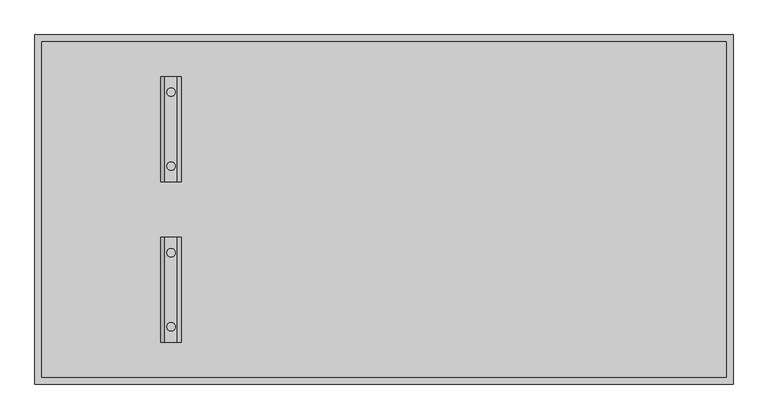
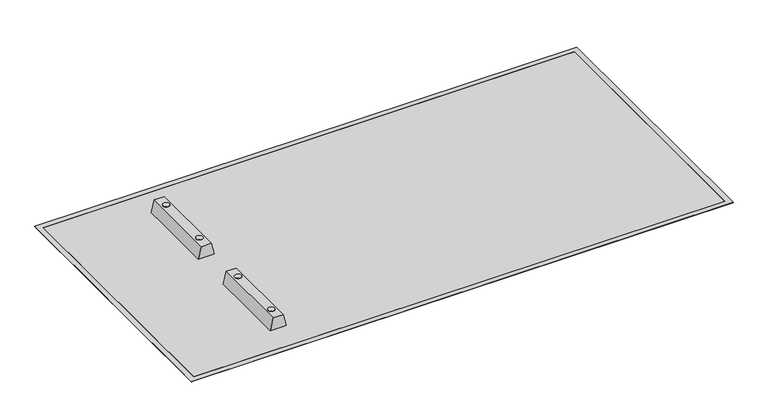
"""IFC4 building model written with IfcOpenShell, lengths in millimetres: proxy geometry, XX171-주차선 표기(일반용) : XX171-주차선 표기(일반용)_라인(2.5X5.0)."""

from ifc_helpers import new_model, si_unit, point, frame, frame_2d, origin, origin_with_axes, place, context, project, spatial, polyline, circle_curve, trimmed, segment, composite_curve, outline, extrude, source, transform, mapped, element, save


def parking_aa608fea(model_context):
    return source(origin(), model_context, "Body", "SweptSolid", [
        extrude(outline(composite_curve([segment(trimmed(circle_curve(frame_2d((-1525.0, 310.0)), 30.0), [point((-1525.0, 340.0))], [point((-1525.0, 280.0))], False, "CARTESIAN"), True, "CONTINUOUS"), segment(trimmed(circle_curve(frame_2d((-1525.0, 310.0)), 30.0), [point((-1525.0, 280.0))], [point((-1525.0, 340.0))], False, "CARTESIAN"), True, "CONTINUOUS")], self_intersect=False)), frame((0.0, 0.0, 117.0), z_axis=(0.0, 0.0, 1.0), x_axis=(1.0, 0.0, 0.0)), (0.0, 0.0, 1.0), 3.0),
        extrude(outline(composite_curve([segment(trimmed(circle_curve(frame_2d((-1525.0, 840.0)), 30.0), [point((-1525.0, 870.0))], [point((-1525.0, 810.0))], False, "CARTESIAN"), True, "CONTINUOUS"), segment(trimmed(circle_curve(frame_2d((-1525.0, 840.0)), 30.0), [point((-1525.0, 810.0))], [point((-1525.0, 870.0))], False, "CARTESIAN"), True, "CONTINUOUS")], self_intersect=False)), frame((0.0, 0.0, 117.0), z_axis=(0.0, 0.0, 1.0), x_axis=(1.0, 0.0, 0.0)), (0.0, 0.0, 1.0), 3.0),
        extrude(outline(polyline([(117.0, -1480.0), (117.0, -1570.0), (0.0, -1600.0), (0.0, -1450.0), (117.0, -1480.0)])), frame((0.0, 200.0, 0.0), z_axis=(0.0, 1.0, 0.0), x_axis=(0.0, 0.0, 1.0)), (0.0, 0.0, 1.0), 750.0),
        extrude(outline(composite_curve([segment(trimmed(circle_curve(frame_2d((-1525.0, -840.0)), 30.0), [point((-1525.0, -810.0))], [point((-1525.0, -870.0))], False, "CARTESIAN"), True, "CONTINUOUS"), segment(trimmed(circle_curve(frame_2d((-1525.0, -840.0)), 30.0), [point((-1525.0, -870.0))], [point((-1525.0, -810.0))], False, "CARTESIAN"), True, "CONTINUOUS")], self_intersect=False)), frame((0.0, 0.0, 117.0), z_axis=(0.0, 0.0, 1.0), x_axis=(1.0, 0.0, 0.0)), (0.0, 0.0, 1.0), 3.0),
        extrude(outline(composite_curve([segment(trimmed(circle_curve(frame_2d((-1525.0, -310.0)), 30.0), [point((-1525.0, -280.0))], [point((-1525.0, -340.0))], False, "CARTESIAN"), True, "CONTINUOUS"), segment(trimmed(circle_curve(frame_2d((-1525.0, -310.0)), 30.0), [point((-1525.0, -340.0))], [point((-1525.0, -280.0))], False, "CARTESIAN"), True, "CONTINUOUS")], self_intersect=False)), frame((0.0, 0.0, 117.0), z_axis=(0.0, 0.0, 1.0), x_axis=(1.0, 0.0, 0.0)), (0.0, 0.0, 1.0), 3.0),
        extrude(outline(polyline([(117.0, -1480.0), (117.0, -1570.0), (0.0, -1600.0), (0.0, -1450.0), (117.0, -1480.0)])), frame((0.0, -950.0, 0.0), z_axis=(0.0, 1.0, 0.0), x_axis=(0.0, 0.0, 1.0)), (0.0, 0.0, 1.0), 750.0),
        extrude(outline(polyline([(2450.0, -1200.0), (-2450.0, -1200.0), (-2450.0, 1200.0), (2450.0, 1200.0), (2450.0, -1200.0)])), origin_with_axes(), (0.0, 0.0, 1.0), 2.0),
        extrude(outline(polyline([(2500.0, -1250.0), (-2500.0, -1250.0), (-2500.0, 1250.0), (2500.0, 1250.0), (2500.0, -1250.0)]), holes=[polyline([(2450.0, -1200.0), (2450.0, 1200.0), (-2450.0, 1200.0), (-2450.0, -1200.0), (2450.0, -1200.0)])]), origin_with_axes(), (0.0, 0.0, 1.0), 2.0),
    ])


if __name__ == "__main__":
    model = new_model("IFC4")
    model_context = context("Model", 3, world=origin())
    ifc_project = project(units=[si_unit("LENGTHUNIT", "METRE", prefix="MILLI")], contexts=[model_context])
    site = spatial("IfcSite", under=ifc_project)
    building = spatial("IfcBuilding", under=site)
    placement = place(None, origin())
    parking_shape = parking_aa608fea(model_context)
    element("IfcBuildingElementProxy", 1, Name="XX171-주차선 표기(일반용) : XX171-주차선 표기(일반용)_라인(2.5X5.0)", ObjectType="XX171-주차선 표기(일반용) : XX171-주차선 표기(일반용)_라인(2.5X5.0)", at=placement, inside=building, context=model_context, shape_type="MappedRepresentation", body=[
        mapped(parking_shape, transform((0.0, 0.0, 0.0), x_axis=(1.0, 0.0, 0.0), y_axis=(0.0, 1.0, 0.0), z_axis=(0.0, 0.0, 1.0))),
    ])
    save(model, "model.ifc")
